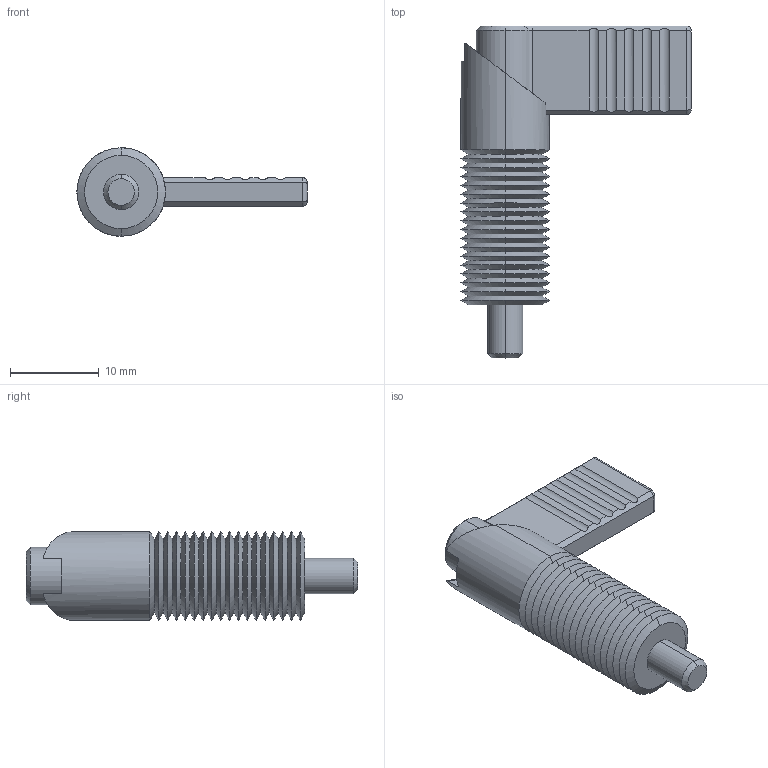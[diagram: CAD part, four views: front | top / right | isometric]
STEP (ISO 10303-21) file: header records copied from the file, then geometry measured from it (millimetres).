
FILE_DESCRIPTION (( 'STEP AP203' ), '1' );
FILE_NAME ('32501.W0308.step', '2016-02-10T17:19:20', ( 'User' ), ( '' ), 'SwSTEP 2.0', 'SolidWorks 2009', '' );
FILE_SCHEMA (( 'CONFIG_CONTROL_DESIGN' ));
Length unit declared in the file: millimetre
Products named in the file (3): Part2_32501.W0308; Part1_32501.W0308; 32501.W0308
Assembly tree (2 placements, depth 2):
  32501.W0308
    Part2_32501.W0308
    Part1_32501.W0308
Bounding box: 26 x 37.5 x 10 mm (x, y, z)
Volume: 2037.7 mm3; surface area: 2976.5 mm2
Topology: 2 solids, 2 shells, 151 faces, 336 edges, 192 vertices
Faces by surface type: cone 84, cylinder 40, plane 27
Entity records: 4449 total; most frequent: CARTESIAN_POINT 852, DIRECTION 726, ORIENTED_EDGE 672, EDGE_CURVE 336, AXIS2_PLACEMENT_3D 276, VERTEX_POINT 192, VECTOR 174, LINE 174
